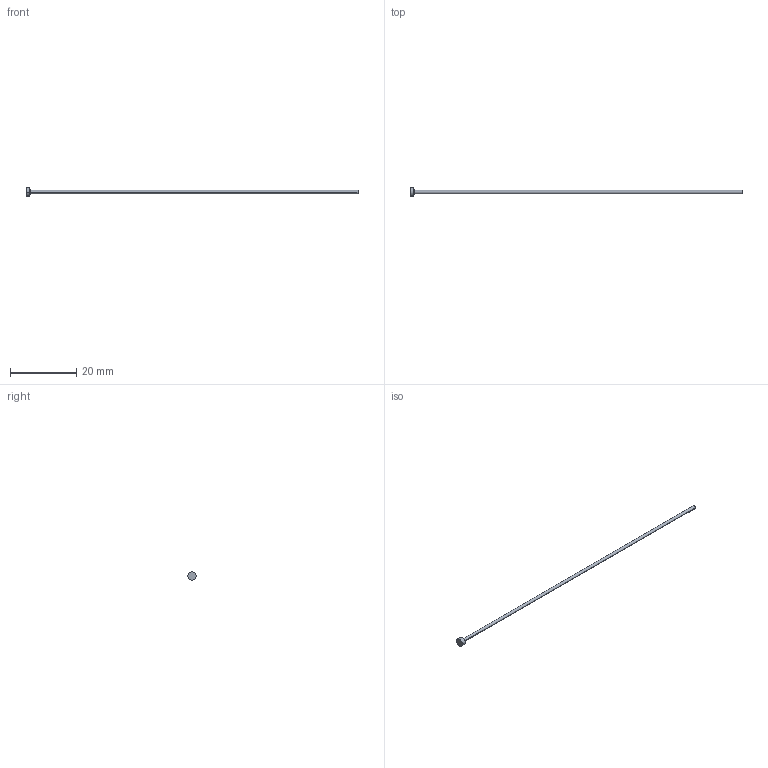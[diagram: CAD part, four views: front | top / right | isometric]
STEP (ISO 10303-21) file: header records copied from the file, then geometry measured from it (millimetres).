
FILE_DESCRIPTION (( 'STEP AP214' ), '1' );
FILE_NAME ('A-1x100.STEP', '2020-05-28T16:42:25', ( 'August' ), ( '' ), 'SwSTEP 2.0', 'SolidWorks 2018', '' );
FILE_SCHEMA (( 'AUTOMOTIVE_DESIGN' ));
Length unit declared in the file: millimetre
Products named in the file (1): A-1x100
Bounding box: 100 x 2.5 x 2.5 mm (x, y, z)
Volume: 83.5 mm3; surface area: 329.4 mm2
Topology: 1 solids, 1 shells, 9 faces, 16 edges, 10 vertices
Faces by surface type: cylinder 4, plane 3, torus 2
Entity records: 260 total; most frequent: DIRECTION 48, CARTESIAN_POINT 36, ORIENTED_EDGE 32, AXIS2_PLACEMENT_3D 22, EDGE_CURVE 16, CIRCLE 12, VERTEX_POINT 10, EDGE_LOOP 10
